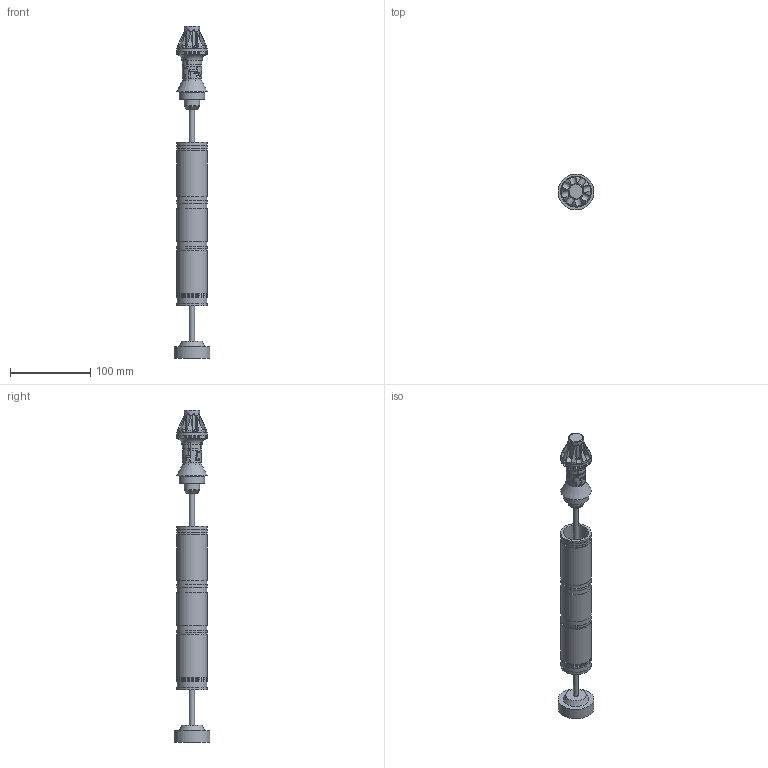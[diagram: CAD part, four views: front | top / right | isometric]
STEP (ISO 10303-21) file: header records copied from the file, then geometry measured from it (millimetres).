
FILE_DESCRIPTION(/* description */ ('Alibre Inc.'),/* implementation_level */ '2;1');
FILE_NAME(/* name */ 'export0',/* time_stamp */ '2014-04-09T19:50:32-04:00',/* author */ (''),/* organization */ (''),/* preprocessor_version */ 'ST-DEVELOPER v14',/* originating_system */ 'Alibre',/* authorisation */ '');
FILE_SCHEMA (('CONFIG_CONTROL_DESIGN'));
Length unit declared in the file: centimetre
Products named in the file (1): ID_1
Bounding box: 44.45 x 44.45 x 413.54 mm (x, y, z)
Volume: 276027.7 mm3; surface area: 54099 mm2
Topology: 1 solids, 1 shells, 327 faces, 810 edges, 526 vertices
Faces by surface type: plane 192, cylinder 114, cone 19, torus 2
Full cylindrical faces by diameter (mm): 1.587 x2, 1.588 x2, 2.383 x1, 6.35 x2, 18.415 x1, 19.05 x2, 23.114 x1, 23.876 x1, 25.806 x1, 31.75 x3, 36.576 x1, 37.287 x9, 37.338 x2, 38.1 x13, 44.45 x1
Entity records: 10835 total; most frequent: CARTESIAN_POINT 3848, ORIENTED_EDGE 1510, DIRECTION 1176, EDGE_CURVE 755, VERTEX_POINT 518, AXIS2_PLACEMENT_3D 503, EDGE_LOOP 415, FACE_BOUND 415
